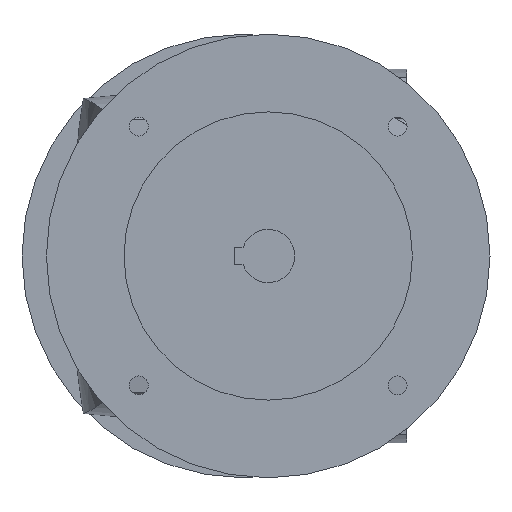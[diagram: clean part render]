
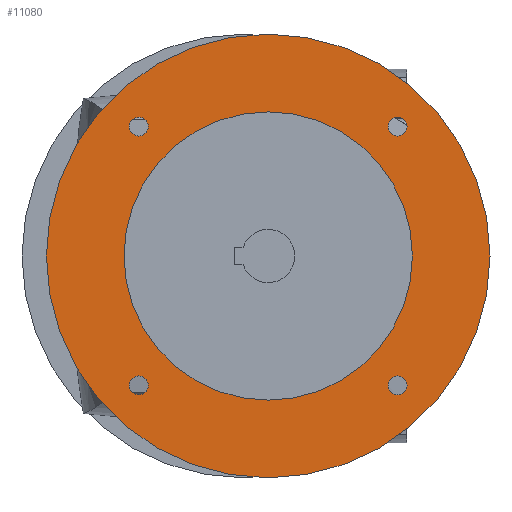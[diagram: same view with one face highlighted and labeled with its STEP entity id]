
A CAD part, left-side view. The second image highlights one B-rep face of the part: STEP entity #11080.
In plain terms, the highlighted planar face has unit normal (-1, 0, 0).
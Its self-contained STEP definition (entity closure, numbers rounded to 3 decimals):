
#2870=CARTESIAN_POINT('',(-124.5,137.336,-58.336));
#2871=DIRECTION('',(1.,0.,0.));
#2872=DIRECTION('',(0.,-1.,0.));
#2873=AXIS2_PLACEMENT_3D('',#2870,#2871,#2872);
#2875=CARTESIAN_POINT('',(-124.5,137.336,-58.336));
#2876=DIRECTION('',(1.,0.,0.));
#2877=DIRECTION('',(0.,1.,0.));
#2878=AXIS2_PLACEMENT_3D('',#2875,#2876,#2877);
#2880=CARTESIAN_POINT('',(-124.5,20.664,-58.336));
#2881=DIRECTION('',(1.,0.,0.));
#2882=DIRECTION('',(0.,-1.,0.));
#2883=AXIS2_PLACEMENT_3D('',#2880,#2881,#2882);
#2885=CARTESIAN_POINT('',(-124.5,20.664,-58.336));
#2886=DIRECTION('',(1.,0.,0.));
#2887=DIRECTION('',(0.,1.,0.));
#2888=AXIS2_PLACEMENT_3D('',#2885,#2886,#2887);
#2890=CARTESIAN_POINT('',(-124.5,20.664,58.336));
#2891=DIRECTION('',(1.,0.,0.));
#2892=DIRECTION('',(0.,-1.,0.));
#2893=AXIS2_PLACEMENT_3D('',#2890,#2891,#2892);
#2895=CARTESIAN_POINT('',(-124.5,20.664,58.336));
#2896=DIRECTION('',(1.,0.,0.));
#2897=DIRECTION('',(0.,1.,0.));
#2898=AXIS2_PLACEMENT_3D('',#2895,#2896,#2897);
#2900=CARTESIAN_POINT('',(-124.5,137.336,58.336));
#2901=DIRECTION('',(1.,0.,0.));
#2902=DIRECTION('',(0.,-1.,0.));
#2903=AXIS2_PLACEMENT_3D('',#2900,#2901,#2902);
#2905=CARTESIAN_POINT('',(-124.5,137.336,58.336));
#2906=DIRECTION('',(1.,0.,0.));
#2907=DIRECTION('',(0.,1.,0.));
#2908=AXIS2_PLACEMENT_3D('',#2905,#2906,#2907);
#2910=CARTESIAN_POINT('',(-124.5,79.,0.));
#2911=DIRECTION('',(1.,0.,0.));
#2912=DIRECTION('',(0.,-1.,0.));
#2913=AXIS2_PLACEMENT_3D('',#2910,#2911,#2912);
#2915=CARTESIAN_POINT('',(-124.5,79.,0.));
#2916=DIRECTION('',(1.,0.,0.));
#2917=DIRECTION('',(0.,1.,0.));
#2918=AXIS2_PLACEMENT_3D('',#2915,#2916,#2917);
#2920=CARTESIAN_POINT('',(-124.5,79.,0.));
#2921=DIRECTION('',(-1.,0.,0.));
#2922=DIRECTION('',(0.,-1.,0.));
#2923=AXIS2_PLACEMENT_3D('',#2920,#2921,#2922);
#2925=CARTESIAN_POINT('',(-124.5,79.,0.));
#2926=DIRECTION('',(-1.,0.,0.));
#2927=DIRECTION('',(0.,1.,0.));
#2928=AXIS2_PLACEMENT_3D('',#2925,#2926,#2927);
#6666=CARTESIAN_POINT('',(-124.5,179.,0.));
#6667=VERTEX_POINT('',#6666);
#6668=CARTESIAN_POINT('',(-124.5,-21.,0.));
#6669=VERTEX_POINT('',#6668);
#6670=CARTESIAN_POINT('',(-124.5,14.,0.));
#6671=CARTESIAN_POINT('',(-124.5,144.,0.));
#6672=VERTEX_POINT('',#6670);
#6673=VERTEX_POINT('',#6671);
#7132=CARTESIAN_POINT('',(-124.5,133.086,58.336));
#7133=CARTESIAN_POINT('',(-124.5,141.586,58.336));
#7134=VERTEX_POINT('',#7132);
#7135=VERTEX_POINT('',#7133);
#7136=CARTESIAN_POINT('',(-124.5,16.414,58.336));
#7137=CARTESIAN_POINT('',(-124.5,24.914,58.336));
#7138=VERTEX_POINT('',#7136);
#7139=VERTEX_POINT('',#7137);
#7140=CARTESIAN_POINT('',(-124.5,16.414,-58.336));
#7141=CARTESIAN_POINT('',(-124.5,24.914,-58.336));
#7142=VERTEX_POINT('',#7140);
#7143=VERTEX_POINT('',#7141);
#7144=CARTESIAN_POINT('',(-124.5,133.086,-58.336));
#7145=CARTESIAN_POINT('',(-124.5,141.586,-58.336));
#7146=VERTEX_POINT('',#7144);
#7147=VERTEX_POINT('',#7145);
#11040=CARTESIAN_POINT('',(-124.5,79.,0.));
#11041=DIRECTION('',(1.,0.,0.));
#11042=DIRECTION('',(0.,-1.,0.));
#11043=AXIS2_PLACEMENT_3D('',#11040,#11041,#11042);
#11044=PLANE('',#11043);
#11046=ORIENTED_EDGE('',*,*,#11045,.T.);
#11048=ORIENTED_EDGE('',*,*,#11047,.T.);
#11049=EDGE_LOOP('',(#11046,#11048));
#11050=FACE_OUTER_BOUND('',#11049,.F.);
#11051=ORIENTED_EDGE('',*,*,#11030,.F.);
#11053=ORIENTED_EDGE('',*,*,#11052,.F.);
#11054=EDGE_LOOP('',(#11051,#11053));
#11055=FACE_BOUND('',#11054,.F.);
#11057=ORIENTED_EDGE('',*,*,#11056,.F.);
#11059=ORIENTED_EDGE('',*,*,#11058,.F.);
#11060=EDGE_LOOP('',(#11057,#11059));
#11061=FACE_BOUND('',#11060,.F.);
#11063=ORIENTED_EDGE('',*,*,#11062,.F.);
#11065=ORIENTED_EDGE('',*,*,#11064,.F.);
#11066=EDGE_LOOP('',(#11063,#11065));
#11067=FACE_BOUND('',#11066,.F.);
#11069=ORIENTED_EDGE('',*,*,#11068,.F.);
#11071=ORIENTED_EDGE('',*,*,#11070,.F.);
#11072=EDGE_LOOP('',(#11069,#11071));
#11073=FACE_BOUND('',#11072,.F.);
#11075=ORIENTED_EDGE('',*,*,#11074,.T.);
#11077=ORIENTED_EDGE('',*,*,#11076,.T.);
#11078=EDGE_LOOP('',(#11075,#11077));
#11079=FACE_BOUND('',#11078,.F.);
#11080=ADVANCED_FACE('',(#11050,#11055,#11061,#11067,#11073,#11079),#11044,.F.);
#2874=CIRCLE('',#2873,4.25);
#2879=CIRCLE('',#2878,4.25);
#2884=CIRCLE('',#2883,4.25);
#2889=CIRCLE('',#2888,4.25);
#2894=CIRCLE('',#2893,4.25);
#2899=CIRCLE('',#2898,4.25);
#2904=CIRCLE('',#2903,4.25);
#2909=CIRCLE('',#2908,4.25);
#2914=CIRCLE('',#2913,100.);
#2919=CIRCLE('',#2918,100.);
#2924=CIRCLE('',#2923,65.);
#2929=CIRCLE('',#2928,65.);
#11030=EDGE_CURVE('',#7146,#7147,#2874,.T.);
#11045=EDGE_CURVE('',#6669,#6667,#2914,.T.);
#11047=EDGE_CURVE('',#6667,#6669,#2919,.T.);
#11052=EDGE_CURVE('',#7147,#7146,#2879,.T.);
#11056=EDGE_CURVE('',#7142,#7143,#2884,.T.);
#11058=EDGE_CURVE('',#7143,#7142,#2889,.T.);
#11062=EDGE_CURVE('',#7138,#7139,#2894,.T.);
#11064=EDGE_CURVE('',#7139,#7138,#2899,.T.);
#11068=EDGE_CURVE('',#7134,#7135,#2904,.T.);
#11070=EDGE_CURVE('',#7135,#7134,#2909,.T.);
#11074=EDGE_CURVE('',#6672,#6673,#2924,.T.);
#11076=EDGE_CURVE('',#6673,#6672,#2929,.T.);
